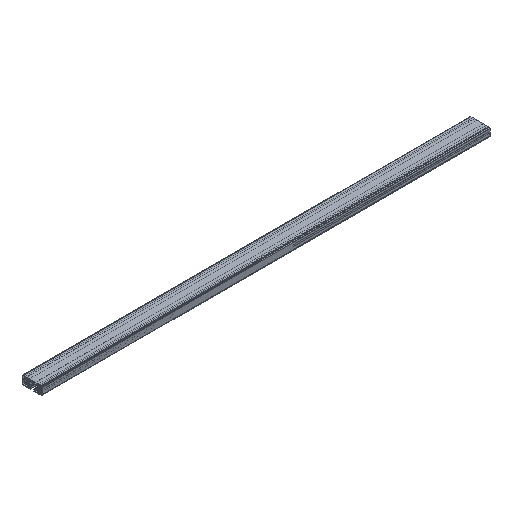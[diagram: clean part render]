
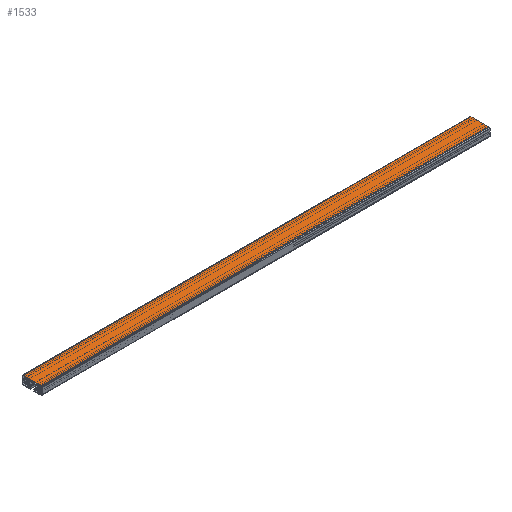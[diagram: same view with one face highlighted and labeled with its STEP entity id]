
A CAD part, isometric view. The second image highlights one B-rep face of the part: STEP entity #1533.
In plain terms, the highlighted planar face has unit normal (0, 0, 1).
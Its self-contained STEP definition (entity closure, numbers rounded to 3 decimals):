
#381 = PLANE ( 'NONE',  #3512 ) ;
#846 = VERTEX_POINT ( 'NONE', #3219 ) ;
#908 = VECTOR ( 'NONE', #928, 1000. ) ;
#927 = ORIENTED_EDGE ( 'NONE', *, *, #1318, .T. ) ;
#928 = DIRECTION ( 'NONE',  ( -1., 0., 0. ) ) ;
#932 = EDGE_CURVE ( 'NONE', #4296, #2395, #1566, .T. ) ;
#1006 = DIRECTION ( 'NONE',  ( 0., -1., 0. ) ) ;
#1185 = ORIENTED_EDGE ( 'NONE', *, *, #932, .F. ) ;
#1318 = EDGE_CURVE ( 'NONE', #846, #1986, #4433, .T. ) ;
#1457 = LINE ( 'NONE', #3959, #4566 ) ;
#1533 = ADVANCED_FACE ( 'NONE', ( #3880 ), #381, .F. ) ;
#1566 = LINE ( 'NONE', #4121, #908 ) ;
#1793 = DIRECTION ( 'NONE',  ( 0., 0., -1. ) ) ;
#1946 = EDGE_CURVE ( 'NONE', #846, #4296, #4604, .T. ) ;
#1986 = VERTEX_POINT ( 'NONE', #2869 ) ;
#2124 = CARTESIAN_POINT ( 'NONE',  ( 1000., 20., 9.5 ) ) ;
#2308 = CARTESIAN_POINT ( 'NONE',  ( 1000., 20., 9.5 ) ) ;
#2329 = ORIENTED_EDGE ( 'NONE', *, *, #1946, .F. ) ;
#2395 = VERTEX_POINT ( 'NONE', #2951 ) ;
#2485 = ORIENTED_EDGE ( 'NONE', *, *, #2506, .T. ) ;
#2506 = EDGE_CURVE ( 'NONE', #1986, #2395, #1457, .T. ) ;
#2735 = DIRECTION ( 'NONE',  ( -1., 0., 0. ) ) ;
#2737 = EDGE_LOOP ( 'NONE', ( #2485, #1185, #2329, #927 ) ) ;
#2823 = CARTESIAN_POINT ( 'NONE',  ( 1000., 20., 9.5 ) ) ;
#2869 = CARTESIAN_POINT ( 'NONE',  ( 0., 20., 9.5 ) ) ;
#2951 = CARTESIAN_POINT ( 'NONE',  ( 0., -20., 9.5 ) ) ;
#3219 = CARTESIAN_POINT ( 'NONE',  ( 1000., 20., 9.5 ) ) ;
#3227 = CARTESIAN_POINT ( 'NONE',  ( 1000., -20., 9.5 ) ) ;
#3512 = AXIS2_PLACEMENT_3D ( 'NONE', #2124, #1793, #3860 ) ;
#3860 = DIRECTION ( 'NONE',  ( -1., 0., 0. ) ) ;
#3880 = FACE_OUTER_BOUND ( 'NONE', #2737, .T. ) ;
#3917 = DIRECTION ( 'NONE',  ( 0., -1., 0. ) ) ;
#3959 = CARTESIAN_POINT ( 'NONE',  ( 0., 20., 9.5 ) ) ;
#4108 = VECTOR ( 'NONE', #1006, 1000. ) ;
#4121 = CARTESIAN_POINT ( 'NONE',  ( 1000., -20., 9.5 ) ) ;
#4215 = VECTOR ( 'NONE', #2735, 1000. ) ;
#4296 = VERTEX_POINT ( 'NONE', #3227 ) ;
#4433 = LINE ( 'NONE', #2308, #4215 ) ;
#4566 = VECTOR ( 'NONE', #3917, 1000. ) ;
#4604 = LINE ( 'NONE', #2823, #4108 ) ;
